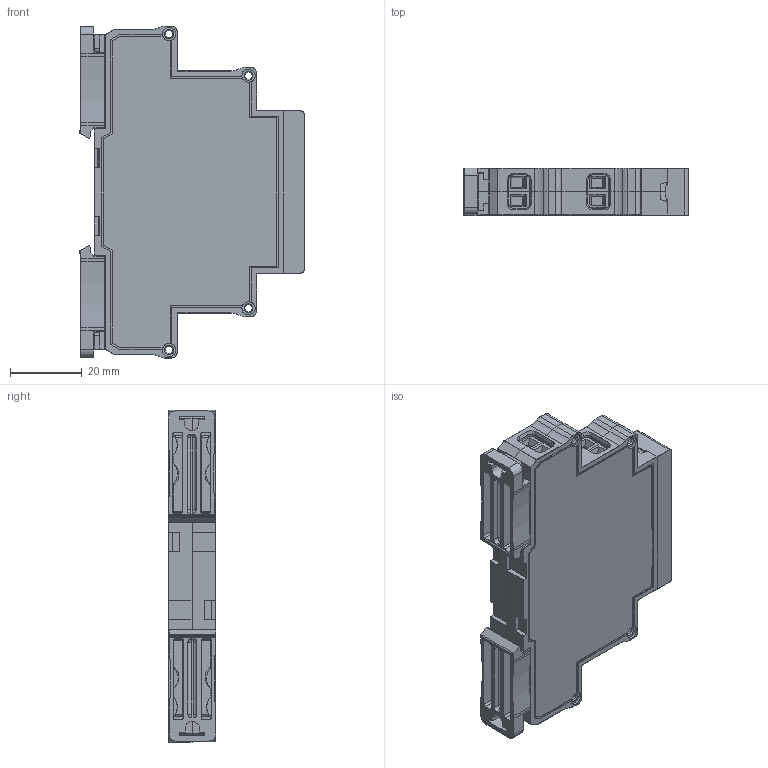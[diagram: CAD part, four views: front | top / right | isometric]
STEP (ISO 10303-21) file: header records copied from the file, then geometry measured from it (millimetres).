
FILE_DESCRIPTION(('STEP AP242'), '1');
FILE_NAME('ﾑ碚濱ﾌﾊ-3ﾌ', '', ('UNSPECIFIED'), ('UNSPECIFIED'), 'C3D Converter', 'C3D Toolkit', '');
FILE_SCHEMA(('AP242_MANAGED_MODEL_BASED_3D_ENGINEERING_MIM_LF { 1 0 10303 442 1 1 4 }'));
Length unit declared in the file: millimetre
Products named in the file (12): Case_UC1-2sR-2024_SimpleModel_6mm; Case13-18-23mm_2step_Lock_v01a_Build20140909_1552; Case_UC1-2sR-2025_Face_13mm
Assembly tree (17 placements, depth 3):
  (unnamed)
    Case_UC1-2sR-2024_SimpleModel_6mm  x2
    Case13-18-23mm_2step_Lock_v01a_Build20140909_1552  x2
    Case_UC1-2sR-2025_Face_13mm
    (unnamed)  x4
      (unnamed)
    (unnamed)
    (unnamed)
    (unnamed)
    (unnamed)
    (unnamed)
    (unnamed)
Bounding box: 62.53 x 13.2 x 92.4 mm (x, y, z)
Volume: 22268.4 mm3; surface area: 34304.6 mm2
Topology: 47 solids, 47 shells, 3881 faces, 10832 edges, 7052 vertices
Faces by surface type: plane 2824, extrusion 517, cylinder 368, torus 96, cone 40, sphere 32, bspline 4
Full cylindrical faces by diameter (mm): 1.238 x8, 2.1 x8, 3.7 x8, 3.9 x8
Entity records: 119525 total; most frequent: CARTESIAN_POINT 22273, ORIENTED_EDGE 16362, DIRECTION 12810, EDGE_CURVE 8181, VECTOR 7198, LINE 6681, VERTEX_POINT 5402, EDGE_LOOP 2961
